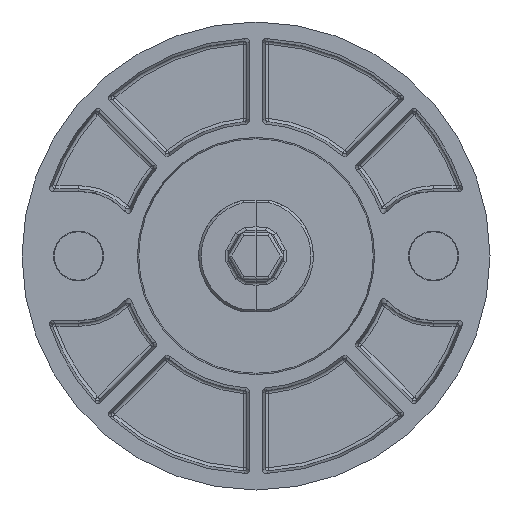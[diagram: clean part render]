
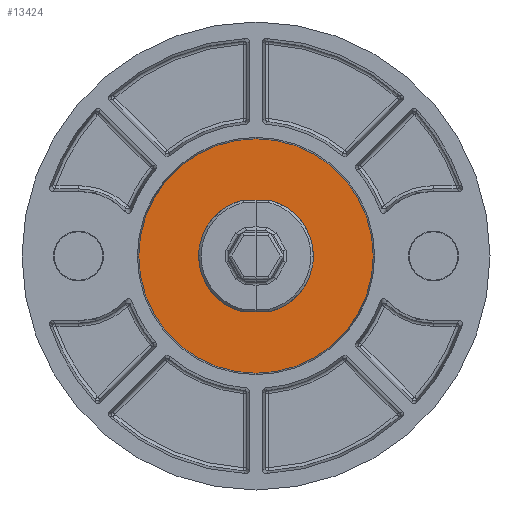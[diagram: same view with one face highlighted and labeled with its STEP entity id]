
A CAD part, front view. The second image highlights one B-rep face of the part: STEP entity #13424.
In plain terms, the highlighted planar face has unit normal (0, -1, 0).
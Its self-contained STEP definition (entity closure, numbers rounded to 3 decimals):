
#3279=CARTESIAN_POINT('',(0.,1.6,0.));
#3280=DIRECTION('',(0.,-1.,0.));
#3281=DIRECTION('',(1.,0.,0.));
#3282=AXIS2_PLACEMENT_3D('',#3279,#3280,#3281);
#3301=CARTESIAN_POINT('',(0.,1.6,0.));
#3302=DIRECTION('',(0.,1.,0.));
#3303=DIRECTION('',(-0.237,0.,-0.972));
#3304=AXIS2_PLACEMENT_3D('',#3301,#3302,#3303);
#3309=DIRECTION('',(1.,0.,-0.017));
#3310=VECTOR('',#3309,0.781);
#3311=CARTESIAN_POINT('',(-0.78,1.6,-3.206));
#3312=LINE('',#3311,#3310);
#3316=DIRECTION('',(1.,0.,0.017));
#3317=VECTOR('',#3316,0.781);
#3318=CARTESIAN_POINT('',(0.,1.6,-3.22));
#3319=LINE('',#3318,#3317);
#3323=CARTESIAN_POINT('',(0.,1.6,0.));
#3324=DIRECTION('',(0.,1.,0.));
#3325=DIRECTION('',(0.237,0.,0.972));
#3326=AXIS2_PLACEMENT_3D('',#3323,#3324,#3325);
#3331=DIRECTION('',(1.,0.,-0.017));
#3332=VECTOR('',#3331,0.781);
#3333=CARTESIAN_POINT('',(0.,1.6,3.22));
#3334=LINE('',#3333,#3332);
#3338=DIRECTION('',(1.,0.,0.017));
#3339=VECTOR('',#3338,0.781);
#3340=CARTESIAN_POINT('',(-0.78,1.6,3.206));
#3341=LINE('',#3340,#3339);
#3345=CARTESIAN_POINT('',(0.,1.6,0.));
#3346=DIRECTION('',(0.,-1.,0.));
#3347=DIRECTION('',(-1.,0.,0.));
#3348=AXIS2_PLACEMENT_3D('',#3345,#3346,#3347);
#9284=CARTESIAN_POINT('',(7.266,1.6,0.));
#9285=CARTESIAN_POINT('',(-7.266,1.6,0.));
#9286=VERTEX_POINT('',#9284);
#9287=VERTEX_POINT('',#9285);
#9353=CARTESIAN_POINT('',(0.,1.6,-3.22));
#9355=VERTEX_POINT('',#9353);
#9356=CARTESIAN_POINT('',(0.,1.6,3.22));
#9358=VERTEX_POINT('',#9356);
#9870=CARTESIAN_POINT('',(-0.78,1.6,-3.206));
#9871=CARTESIAN_POINT('',(-0.78,1.6,3.206));
#9872=VERTEX_POINT('',#9870);
#9873=VERTEX_POINT('',#9871);
#9874=CARTESIAN_POINT('',(0.78,1.6,3.206));
#9875=CARTESIAN_POINT('',(0.78,1.6,-3.206));
#9876=VERTEX_POINT('',#9874);
#9877=VERTEX_POINT('',#9875);
#13400=CARTESIAN_POINT('',(0.,1.6,0.));
#13401=DIRECTION('',(0.,-1.,0.));
#13402=DIRECTION('',(1.,0.,0.));
#13403=AXIS2_PLACEMENT_3D('',#13400,#13401,#13402);
#13404=PLANE('',#13403);
#13405=ORIENTED_EDGE('',*,*,#13383,.F.);
#13407=ORIENTED_EDGE('',*,*,#13406,.F.);
#13408=EDGE_LOOP('',(#13405,#13407));
#13409=FACE_OUTER_BOUND('',#13408,.F.);
#13411=ORIENTED_EDGE('',*,*,#13410,.F.);
#13413=ORIENTED_EDGE('',*,*,#13412,.T.);
#13415=ORIENTED_EDGE('',*,*,#13414,.T.);
#13417=ORIENTED_EDGE('',*,*,#13416,.F.);
#13419=ORIENTED_EDGE('',*,*,#13418,.F.);
#13421=ORIENTED_EDGE('',*,*,#13420,.F.);
#13422=EDGE_LOOP('',(#13411,#13413,#13415,#13417,#13419,#13421));
#13423=FACE_BOUND('',#13422,.F.);
#3283=CIRCLE('',#3282,7.266);
#3305=CIRCLE('',#3304,3.3);
#3327=CIRCLE('',#3326,3.3);
#3349=CIRCLE('',#3348,7.266);
#13383=EDGE_CURVE('',#9286,#9287,#3283,.T.);
#13406=EDGE_CURVE('',#9287,#9286,#3349,.T.);
#13410=EDGE_CURVE('',#9872,#9873,#3305,.T.);
#13412=EDGE_CURVE('',#9872,#9355,#3312,.T.);
#13414=EDGE_CURVE('',#9355,#9877,#3319,.T.);
#13416=EDGE_CURVE('',#9876,#9877,#3327,.T.);
#13418=EDGE_CURVE('',#9358,#9876,#3334,.T.);
#13420=EDGE_CURVE('',#9873,#9358,#3341,.T.);
#13424=ADVANCED_FACE('',(#13409,#13423),#13404,.T.);
